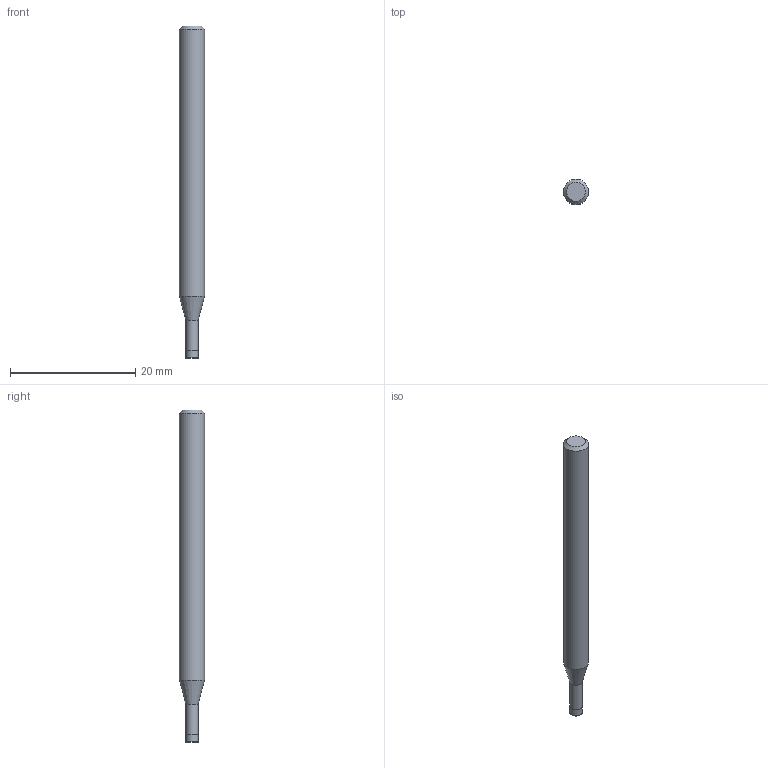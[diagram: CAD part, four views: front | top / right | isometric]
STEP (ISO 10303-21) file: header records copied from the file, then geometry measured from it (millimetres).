
FILE_DESCRIPTION((''),'2;1');
FILE_NAME('C:\Users\nsx150\AppData\Local\Temp\Mastercam 2021\LJSIDMOTM8\TEMP.step','2021-08-03T13:51:14',(''),(''),'STEP Write','Mastercam 2021 ... CNC Software, Inc.','');
FILE_SCHEMA(('AUTOMOTIVE_DESIGN'));
Length unit declared in the file: millimetre
Products named in the file (1): None
Bounding box: 4 x 4 x 53 mm (x, y, z)
Volume: 586.5 mm3; surface area: 634 mm2
Topology: 2 solids, 2 shells, 10 faces, 14 edges, 8 vertices
Faces by surface type: plane 4, cylinder 3, cone 2, torus 1
Full cylindrical faces by diameter (mm): 1.94 x1, 2 x1, 4 x1
Entity records: 232 total; most frequent: DIRECTION 40, CARTESIAN_POINT 28, AXIS2_PLACEMENT_3D 20, ORIENTED_EDGE 16, EDGE_LOOP 16, STYLED_ITEM 13, ADVANCED_FACE 10, FACE_BOUND 10
